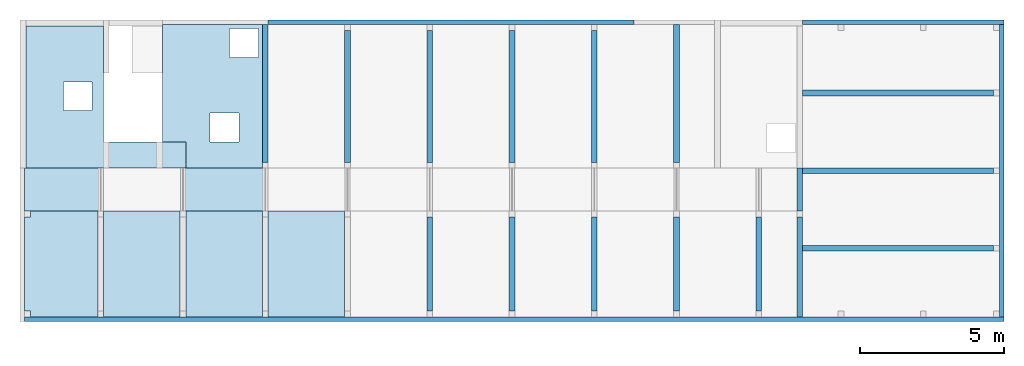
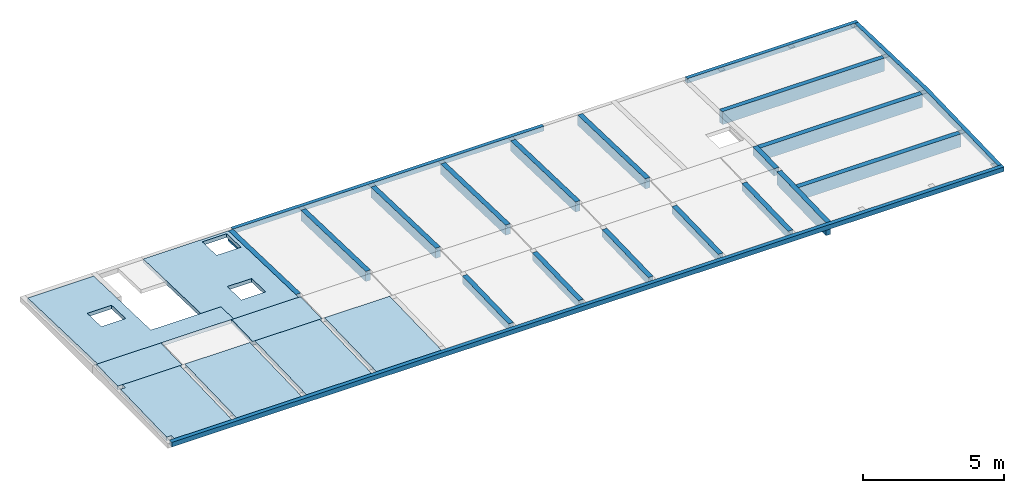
# One storey, part 2 of 5: 20 beams, 8 slabs, 3 openings.
"""IFC4 building model written with IfcOpenShell, lengths in metres."""

from ifc_helpers import new_model, entity, si_unit, converted_unit, derived_unit, frame, frame_2d, origin, origin_with_axes, place, context, subcontext, project, spatial, polyline, rectangle, outline, extrude, clip, halfspace, bounded_halfspace, faceted_brep, material, element, save


model = new_model("IFC4")

# Units and contexts
model_context = context("Model", 3, precision=1e-05, world=origin())
plan_context = context("Plan", 2, precision=1e-05, world=origin())
body_context = subcontext(model_context, "Body", "Model", "MODEL_VIEW")
ifc_project = project(units=[si_unit("LENGTHUNIT", "METRE"), si_unit("AREAUNIT", "SQUARE_METRE"), si_unit("VOLUMEUNIT", "CUBIC_METRE"), si_unit("MASSUNIT", "GRAM", prefix="KILO"), converted_unit("PLANEANGLEUNIT", "DEGREE", entity("IfcPlaneAngleMeasure", 0.0174532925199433), si_unit("PLANEANGLEUNIT", "RADIAN"), dimensions=[0, 0, 0, 0, 0, 0, 0]), derived_unit("THERMALTRANSMITTANCEUNIT", [(si_unit("POWERUNIT", "WATT"), 1), (si_unit("THERMODYNAMICTEMPERATUREUNIT", "KELVIN"), -1), (si_unit("LENGTHUNIT", "METRE"), -2)]), derived_unit("VOLUMETRICFLOWRATEUNIT", [(si_unit("LENGTHUNIT", "METRE"), 3), (converted_unit("TIMEUNIT", "hour", entity("IfcTimeMeasure", 3600.0), si_unit("TIMEUNIT", "SECOND"), dimensions=[0, 0, 1, 0, 0, 0, 0]), -1), (si_unit("LENGTHUNIT", "METRE"), -1)])], contexts=[model_context, plan_context])

# Site, building, storey
site_placement = place(None, origin())
site = spatial("IfcSite", under=ifc_project, at=site_placement, Name="Site", CompositionType="ELEMENT")
building_placement = place(site_placement, origin())
building = spatial("IfcBuilding", under=site, at=building_placement, Name="Admin", CompositionType="ELEMENT")
storey_placement = place(building_placement, frame((0.0, 0.0, 9.64)))
storey = spatial("IfcBuildingStorey", under=building, at=storey_placement, Name="03-Toiture", CompositionType="ELEMENT", Elevation=9.64)

# Beams
ifc_material_1 = material(Name="CLT")
beam_1_placement = place(storey_placement, frame((24.1598015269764, 11.869449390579, -0.16)))
element("IfcBeam", 1, at=beam_1_placement, inside=storey, material=ifc_material_1, Name="Poutre CLT Axe 2.2 R+2", PredefinedType="NOTDEFINED", context=body_context, shape_type="Brep", body=[
    faceted_brep([(34.0599986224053, 0.16, 0.0), (34.0599986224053, 0.0, 0.0), (34.0599986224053, 0.0, 0.200000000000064), (34.0599986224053, 0.16, 0.204637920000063), (1.41395285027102e-08, 0.0, 0.0), (1.41395285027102e-08, 0.0, 0.200000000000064), (0.0, 0.159999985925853, 0.0), (0.0, 0.159999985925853, 0.204637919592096)], [[[0, 1, 2, 3]], [[1, 4, 5, 2]], [[4, 6, 7, 5]], [[6, 0, 3, 7]], [[7, 3, 2, 5]], [[0, 6, 4, 1]]], orient=[[False], [False], [False], [False], [False], [False]]),
])
ifc_material_2 = material(Name="CLT")
beam_2_placement = place(storey_placement, frame((32.6298006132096, 22.189449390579, -0.16)))
element("IfcBeam", 2, at=beam_2_placement, inside=storey, material=ifc_material_2, Name="Poutre CLT Axe 2.6 R+2", PredefinedType="NOTDEFINED", context=body_context, shape_type="Clipping", body=[
    clip(extrude(rectangle(XDim=0.16, YDim=0.204799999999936, at=frame_2d((0.08, 0.102399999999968), x_axis=(1.0, 0.0))), frame((0.0, 0.0, 0.0), z_axis=(1.0, 0.0, 0.0), x_axis=(0.0, 1.0, 0.0)), (0.0, 0.0, 1.0), 12.7200004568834), halfspace(frame((6.36000022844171, 0.08, 0.202399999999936), z_axis=(-7.14689994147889e-17, -0.0299865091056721, -0.999550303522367), x_axis=(0.0, 0.999550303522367, -0.0299865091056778)), True)),
])
ifc_material_3 = material(Name="CLT")
beam_3_placement = place(storey_placement, frame((51.2198010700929, 22.189449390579, -0.16)))
element("IfcBeam", 3, at=beam_3_placement, inside=storey, material=ifc_material_3, Name="Poutre CLT Axe 2.6 R+2", PredefinedType="NOTDEFINED", context=body_context, shape_type="Clipping", body=[
    clip(extrude(rectangle(XDim=0.16, YDim=0.204799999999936, at=frame_2d((0.08, 0.102399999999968), x_axis=(1.0, 0.0))), frame((0.0, 0.0, 0.0), z_axis=(1.0, 0.0, 0.0), x_axis=(0.0, 1.0, 0.0)), (0.0, 0.0, 1.0), 6.99999907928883), halfspace(frame((3.49999953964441, 0.08, 0.202399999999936), z_axis=(0.0, -0.0299865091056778, -0.999550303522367), x_axis=(1.0, 0.0, 0.0)), True)),
])
ifc_material_4 = material(Name="CLT")
beam_4_placement = place(storey_placement, frame((58.2198001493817, 12.029449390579, -0.16), z_axis=(0.0, 0.0, 1.0), x_axis=(0.0, 1.0, 0.0)))
element("IfcBeam", 4, at=beam_4_placement, inside=storey, material=ifc_material_4, Name="Poutre CLT Axe 2.M R+2", PredefinedType="NOTDEFINED", context=body_context, shape_type="Clipping", body=[
    clip(clip(extrude(rectangle(XDim=0.159999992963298, YDim=0.354500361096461, at=frame_2d((0.0799999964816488, 0.177250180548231), x_axis=(1.0, 0.0))), frame((0.0, 0.0, 0.0), z_axis=(1.0, 0.0, 0.0), x_axis=(0.0, 1.0, 0.0)), (0.0, 0.0, 1.0), 10.16), bounded_halfspace(frame((2.58499398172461, 0.0799999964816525, 0.279569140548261), z_axis=(0.0289748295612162, 0.0, -0.999580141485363), x_axis=(0.0, -1.0, 0.0)), True, origin_with_axes(), polyline([(1.81898940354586e-15, 0.159999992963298), (1.81898940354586e-15, 0.0), (5.16998796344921, 0.0), (5.16998796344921, 0.159999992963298), (1.81898940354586e-15, 0.159999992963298)]))), bounded_halfspace(frame((7.66499398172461, 0.0799999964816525, 0.279650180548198), z_axis=(-0.0299865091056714, 0.0, -0.999550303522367), x_axis=(0.999550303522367, 0.0, -0.0299865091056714)), True, origin_with_axes(), polyline([(5.16998796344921, 0.0), (10.16, 0.0), (10.16, 0.159999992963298), (5.16998796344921, 0.159999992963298), (5.16998796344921, 0.0)]))),
])
ifc_material_5 = material(Name="GL24h")
beam_5_placement = place(storey_placement, frame((38.1498006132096, 15.499449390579, -0.269699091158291), z_axis=(0.0, 0.0, 1.0), x_axis=(1.39719693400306e-07, -0.99999999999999, 0.0)))
element("IfcBeam", 5, at=beam_5_placement, inside=storey, material=ifc_material_5, Name="P 2.11 20/32", PredefinedType="NOTDEFINED", context=body_context, shape_type="Clipping", body=[
    clip(clip(extrude(rectangle(XDim=0.2, YDim=0.414921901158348, at=frame_2d((0.1, 0.207460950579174), x_axis=(1.0, 0.0))), frame((0.0, 0.0, 0.0), z_axis=(1.0, 0.0, 0.0), x_axis=(0.0, 1.0, 0.0)), (0.0, 0.0, 1.0), 3.27000000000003), halfspace(frame((1.63500001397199, 0.099999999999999, 0.0473937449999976), z_axis=(0.0289748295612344, -4.04835430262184e-09, 0.999580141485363), x_axis=(-1.39719693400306e-07, -0.99999999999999, 0.0)), True)), halfspace(frame((1.63500001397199, 0.099999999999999, 0.367528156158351), z_axis=(-0.0289748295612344, 4.04835430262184e-09, -0.999580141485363), x_axis=(0.999580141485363, -2.64697796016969e-23, -0.0289748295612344)), True)),
])
ifc_material_6 = material(Name="GL24h")
beam_6_placement = place(storey_placement, frame((41.0098006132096, 15.499449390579, -0.269699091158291), z_axis=(0.0, 0.0, 1.0), x_axis=(1.39719693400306e-07, -0.99999999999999, 0.0)))
element("IfcBeam", 6, at=beam_6_placement, inside=storey, material=ifc_material_6, Name="P 2.12 20/32", PredefinedType="NOTDEFINED", context=body_context, shape_type="Clipping", body=[
    clip(clip(extrude(rectangle(XDim=0.2, YDim=0.414921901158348, at=frame_2d((0.1, 0.207460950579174), x_axis=(1.0, 0.0))), frame((0.0, 0.0, 0.0), z_axis=(1.0, 0.0, 0.0), x_axis=(0.0, 1.0, 0.0)), (0.0, 0.0, 1.0), 3.27000000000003), halfspace(frame((1.63500001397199, 0.099999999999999, 0.0473937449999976), z_axis=(0.0289748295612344, -4.04835430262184e-09, 0.999580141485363), x_axis=(-1.39719693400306e-07, -0.99999999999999, 0.0)), True)), halfspace(frame((1.63500001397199, 0.099999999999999, 0.367528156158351), z_axis=(-0.0289748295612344, 4.04835430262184e-09, -0.999580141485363), x_axis=(0.999580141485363, -2.64697796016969e-23, -0.0289748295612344)), True)),
])
ifc_material_7 = material(Name="GL24h")
beam_7_placement = place(storey_placement, frame((43.8698006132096, 15.499449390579, -0.269699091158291), z_axis=(0.0, 0.0, 1.0), x_axis=(1.39719693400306e-07, -0.99999999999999, 0.0)))
element("IfcBeam", 7, at=beam_7_placement, inside=storey, material=ifc_material_7, Name="P 2.13 20/32", PredefinedType="NOTDEFINED", context=body_context, shape_type="Clipping", body=[
    clip(clip(extrude(rectangle(XDim=0.2, YDim=0.414921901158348, at=frame_2d((0.1, 0.207460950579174), x_axis=(1.0, 0.0))), frame((0.0, 0.0, 0.0), z_axis=(1.0, 0.0, 0.0), x_axis=(0.0, 1.0, 0.0)), (0.0, 0.0, 1.0), 3.27000000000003), halfspace(frame((1.63500001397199, 0.099999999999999, 0.0473937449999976), z_axis=(0.0289748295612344, -4.04835430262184e-09, 0.999580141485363), x_axis=(-1.39719693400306e-07, -0.99999999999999, 0.0)), True)), halfspace(frame((1.63500001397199, 0.099999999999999, 0.367528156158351), z_axis=(-0.0289748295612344, 4.04835430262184e-09, -0.999580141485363), x_axis=(0.999580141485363, -2.64697796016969e-23, -0.0289748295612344)), True)),
])
ifc_material_8 = material(Name="GL24h")
beam_8_placement = place(storey_placement, frame((46.7298006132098, 15.499449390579, -0.269699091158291), z_axis=(0.0, 0.0, 1.0), x_axis=(1.39719693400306e-07, -0.99999999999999, 0.0)))
element("IfcBeam", 8, at=beam_8_placement, inside=storey, material=ifc_material_8, Name="P 2.14 20/32", PredefinedType="NOTDEFINED", context=body_context, shape_type="Clipping", body=[
    clip(clip(extrude(rectangle(XDim=0.2, YDim=0.414921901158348, at=frame_2d((0.1, 0.207460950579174), x_axis=(1.0, 0.0))), frame((0.0, 0.0, 0.0), z_axis=(1.0, 0.0, 0.0), x_axis=(0.0, 1.0, 0.0)), (0.0, 0.0, 1.0), 3.27000000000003), halfspace(frame((1.63500001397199, 0.099999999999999, 0.0473937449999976), z_axis=(0.0289748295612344, -4.04835430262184e-09, 0.999580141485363), x_axis=(-1.39719693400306e-07, -0.99999999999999, 0.0)), True)), halfspace(frame((1.63500001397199, 0.099999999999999, 0.367528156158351), z_axis=(-0.0289748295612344, 4.04835430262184e-09, -0.999580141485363), x_axis=(0.999580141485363, -2.64697796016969e-23, -0.0289748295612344)), True)),
])
ifc_material_9 = material(Name="GL24h")
beam_9_placement = place(storey_placement, frame((49.5898006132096, 15.499449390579, -0.269699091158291), z_axis=(0.0, 0.0, 1.0), x_axis=(1.39719693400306e-07, -0.99999999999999, 0.0)))
element("IfcBeam", 9, at=beam_9_placement, inside=storey, material=ifc_material_9, Name="P 2.15 20/32", PredefinedType="NOTDEFINED", context=body_context, shape_type="Clipping", body=[
    clip(clip(extrude(rectangle(XDim=0.2, YDim=0.414921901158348, at=frame_2d((0.1, 0.207460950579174), x_axis=(1.0, 0.0))), frame((0.0, 0.0, 0.0), z_axis=(1.0, 0.0, 0.0), x_axis=(0.0, 1.0, 0.0)), (0.0, 0.0, 1.0), 3.27000000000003), halfspace(frame((1.63500001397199, 0.099999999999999, 0.0473937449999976), z_axis=(0.0289748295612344, -4.04835430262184e-09, 0.999580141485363), x_axis=(-1.39719693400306e-07, -0.99999999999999, 0.0)), True)), halfspace(frame((1.63500001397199, 0.099999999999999, 0.367528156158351), z_axis=(-0.0289748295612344, 4.04835430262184e-09, -0.999580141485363), x_axis=(0.999580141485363, -2.64697796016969e-23, -0.0289748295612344)), True)),
])
ifc_material_10 = material(Name="GL24h")
beam_10_placement = place(storey_placement, frame((51.2198015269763, 12.029449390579, -0.515597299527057), z_axis=(0.0, 0.0, 1.0), x_axis=(-1.31666685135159e-07, 0.999999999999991, 0.0)))
element("IfcBeam", 10, at=beam_10_placement, inside=storey, material=ifc_material_10, Name="P 2.16 20/56", PredefinedType="NOTDEFINED", context=body_context, shape_type="Clipping", body=[
    clip(clip(extrude(rectangle(XDim=0.2, YDim=0.660820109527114, at=frame_2d((0.1, 0.330410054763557), x_axis=(1.0, 0.0))), frame((0.0, 0.0, 0.0), z_axis=(1.0, 0.0, 0.0), x_axis=(0.0, 1.0, 0.0)), (0.0, 0.0, 1.0), 3.47000000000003), halfspace(frame((1.73500001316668, 0.0999999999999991, 0.0502924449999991), z_axis=(-0.0289748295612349, 3.81501978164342e-09, 0.999580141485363), x_axis=(-1.31666685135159e-07, -0.999999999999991, 0.0)), True)), halfspace(frame((1.73500001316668, 0.0999999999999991, 0.610527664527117), z_axis=(0.0289748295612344, -3.81501976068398e-09, -0.999580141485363), x_axis=(0.999580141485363, 0.0, 0.0289748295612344)), True)),
])
ifc_material_11 = material(Name="GL24h")
beam_11_placement = place(storey_placement, frame((57.8598006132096, 14.509449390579, -0.44950693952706), z_axis=(0.0, 0.0, 1.0), x_axis=(-1.0, 0.0, 0.0)))
element("IfcBeam", 11, at=beam_11_placement, inside=storey, material=ifc_material_11, Name="P 2.19 20/56", PredefinedType="NOTDEFINED", context=body_context, shape_type="Clipping", body=[
    clip(clip(extrude(rectangle(XDim=0.2, YDim=0.566032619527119, at=frame_2d((0.1, 0.28301630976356), x_axis=(1.0, 0.0))), frame((0.0, 0.0, 0.0), z_axis=(1.0, 0.0, 0.0), x_axis=(0.0, 1.0, 0.0)), (0.0, 0.0, 1.0), 6.63999896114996), halfspace(frame((3.31999947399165, 0.1, 0.00289869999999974), z_axis=(0.0, 0.0289748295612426, 0.999580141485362), x_axis=(0.0, -0.999580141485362, 0.0289748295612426)), True)), halfspace(frame((3.31999947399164, 0.1, 0.563133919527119), z_axis=(0.0, -0.0289748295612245, -0.999580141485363), x_axis=(1.0, 0.0, 0.0)), True)),
])
ifc_material_12 = material(Name="GL24h")
beam_12_placement = place(storey_placement, frame((57.8598006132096, 17.209449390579, -0.371242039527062), z_axis=(0.0, 0.0, 1.0), x_axis=(-1.0, 0.0, 0.0)))
element("IfcBeam", 12, at=beam_12_placement, inside=storey, material=ifc_material_12, Name="P 2.18  20/56", PredefinedType="NOTDEFINED", context=body_context, shape_type="Clipping", body=[
    clip(clip(clip(clip(extrude(rectangle(XDim=0.2, YDim=0.565742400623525, at=frame_2d((0.1, 0.282871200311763), x_axis=(1.0, 0.0))), frame((0.0, 0.0, 0.0), z_axis=(1.0, 0.0, 0.0), x_axis=(0.0, 1.0, 0.0)), (0.0, 0.0, 1.0), 6.63999908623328), bounded_halfspace(frame((3.31999954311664, 0.00500601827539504, 0.00534027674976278), z_axis=(-1.36911682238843e-16, -0.0299865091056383, 0.999550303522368), x_axis=(0.0, -0.999550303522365, -0.0299865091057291)), True, origin_with_axes(), polyline([(0.0, 0.0100120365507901), (0.0, 0.0), (6.63999908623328, 0.0), (6.63999908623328, 0.0100120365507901), (0.0, 0.0100120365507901)]))), bounded_halfspace(frame((3.31999954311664, 0.105006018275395, 0.00275359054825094), z_axis=(0.0, 0.0289748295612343, 0.999580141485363), x_axis=(-1.0, 0.0, 0.0)), True, origin_with_axes(), polyline([(6.63999908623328, 0.2), (0.0, 0.2), (0.0, 0.0100120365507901), (6.63999908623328, 0.0100120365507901), (6.63999908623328, 0.2)]))), bounded_halfspace(frame((3.31999954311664, 0.00500601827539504, 0.565592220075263), z_axis=(0.0, 0.0299865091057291, -0.999550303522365), x_axis=(1.0, 0.0, 0.0)), True, origin_with_axes(), polyline([(0.0, 0.0), (6.63999908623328, 0.0), (6.63999908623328, 0.0100120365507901), (0.0, 0.0100120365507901), (0.0, 0.0)]))), bounded_halfspace(frame((3.31999954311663, 0.105006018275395, 0.562988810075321), z_axis=(0.0, -0.028974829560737, -0.999580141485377), x_axis=(0.0, -0.999580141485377, 0.028974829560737)), True, origin_with_axes(), polyline([(0.0, 0.2), (0.0, 0.0100120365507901), (6.63999908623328, 0.0100120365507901), (6.63999908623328, 0.2), (0.0, 0.2)]))),
])
ifc_material_13 = material(Name="GL24h")
beam_13_placement = place(storey_placement, frame((57.8598006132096, 19.909449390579, -0.447051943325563), z_axis=(0.0, 0.0, 1.0), x_axis=(-1.0, 0.0, 0.0)))
element("IfcBeam", 13, at=beam_13_placement, inside=storey, material=ifc_material_13, Name="P 2.17 20/56", PredefinedType="NOTDEFINED", context=body_context, shape_type="Clipping", body=[
    clip(clip(extrude(rectangle(XDim=0.2, YDim=0.5662519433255, at=frame_2d((0.1, 0.28312597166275), x_axis=(1.0, 0.0))), frame((0.0, 0.0, 0.0), z_axis=(1.0, 0.0, 0.0), x_axis=(0.0, 1.0, 0.0)), (0.0, 0.0, 1.0), 6.63999908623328), halfspace(frame((3.31999954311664, 0.1, 0.003), z_axis=(0.0, -0.029986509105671, 0.999550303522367), x_axis=(0.0, -0.999550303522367, -0.029986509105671)), True)), halfspace(frame((3.31999954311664, 0.1, 0.563251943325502), z_axis=(0.0, 0.0299865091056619, -0.999550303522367), x_axis=(1.0, 0.0, 0.0)), True)),
])
ifc_material_14 = material(Name="GL24h")
beam_14_placement = place(storey_placement, frame((46.7298006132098, 22.189449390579, -0.3953979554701), z_axis=(0.0, 0.0, 1.0), x_axis=(0.0, -1.0, 0.0)))
element("IfcBeam", 14, at=beam_14_placement, inside=storey, material=ifc_material_14, Name="P 2.06 20/44", PredefinedType="NOTDEFINED", context=body_context, shape_type="Clipping", body=[
    clip(clip(extrude(rectangle(XDim=0.2, YDim=0.583897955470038, at=frame_2d((0.1, 0.291948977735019), x_axis=(1.0, 0.0))), frame((0.0, 0.0, 0.0), z_axis=(1.0, 0.0, 0.0), x_axis=(0.0, 1.0, 0.0)), (0.0, 0.0, 1.0), 4.79), halfspace(frame((2.395, 0.1, 0.0718500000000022), z_axis=(-0.0299865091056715, 0.0, 0.999550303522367), x_axis=(0.0, -1.0, 0.0)), True)), halfspace(frame((2.395, 0.1, 0.512047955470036), z_axis=(0.0299865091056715, 0.0, -0.999550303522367), x_axis=(0.999550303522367, 0.0, 0.0299865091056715)), True)),
])
ifc_material_15 = material(Name="GL24h")
beam_15_placement = place(storey_placement, frame((43.8698006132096, 21.989449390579, -0.389397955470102), z_axis=(0.0, 0.0, 1.0), x_axis=(0.0, -1.0, 0.0)))
element("IfcBeam", 15, at=beam_15_placement, inside=storey, material=ifc_material_15, Name="P 2.05 20/44", PredefinedType="NOTDEFINED", context=body_context, shape_type="Clipping", body=[
    clip(clip(extrude(rectangle(XDim=0.2, YDim=0.57789795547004, at=frame_2d((0.1, 0.28894897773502), x_axis=(1.0, 0.0))), frame((0.0, 0.0, 0.0), z_axis=(1.0, 0.0, 0.0), x_axis=(0.0, 1.0, 0.0)), (0.0, 0.0, 1.0), 4.59), halfspace(frame((2.295, 0.1, 0.0688500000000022), z_axis=(-0.029986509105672, 0.0, 0.999550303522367), x_axis=(0.0, -1.0, 0.0)), True)), halfspace(frame((2.295, 0.1, 0.50904795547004), z_axis=(0.0299865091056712, 0.0, -0.999550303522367), x_axis=(0.999550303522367, 0.0, 0.0299865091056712)), True)),
])
ifc_material_16 = material(Name="GL24h")
beam_16_placement = place(storey_placement, frame((41.0098006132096, 21.989449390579, -0.389397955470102), z_axis=(0.0, 0.0, 1.0), x_axis=(0.0, -1.0, 0.0)))
element("IfcBeam", 16, at=beam_16_placement, inside=storey, material=ifc_material_16, Name="P 2.04 20/44", PredefinedType="NOTDEFINED", context=body_context, shape_type="Clipping", body=[
    clip(clip(extrude(rectangle(XDim=0.2, YDim=0.57789795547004, at=frame_2d((0.1, 0.28894897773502), x_axis=(1.0, 0.0))), frame((0.0, 0.0, 0.0), z_axis=(1.0, 0.0, 0.0), x_axis=(0.0, 1.0, 0.0)), (0.0, 0.0, 1.0), 4.59), halfspace(frame((2.295, 0.1, 0.0688500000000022), z_axis=(-0.029986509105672, 0.0, 0.999550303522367), x_axis=(0.0, -1.0, 0.0)), True)), halfspace(frame((2.295, 0.1, 0.50904795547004), z_axis=(0.0299865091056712, 0.0, -0.999550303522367), x_axis=(0.999550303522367, 0.0, 0.0299865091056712)), True)),
])
ifc_material_17 = material(Name="GL24h")
beam_17_placement = place(storey_placement, frame((38.1498006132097, 21.989449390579, -0.389397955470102), z_axis=(0.0, 0.0, 1.0), x_axis=(0.0, -1.0, 0.0)))
element("IfcBeam", 17, at=beam_17_placement, inside=storey, material=ifc_material_17, Name="P 2.03 20/44", PredefinedType="NOTDEFINED", context=body_context, shape_type="Clipping", body=[
    clip(clip(extrude(rectangle(XDim=0.2, YDim=0.57789795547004, at=frame_2d((0.1, 0.28894897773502), x_axis=(1.0, 0.0))), frame((0.0, 0.0, 0.0), z_axis=(1.0, 0.0, 0.0), x_axis=(0.0, 1.0, 0.0)), (0.0, 0.0, 1.0), 4.59), halfspace(frame((2.295, 0.1, 0.0688500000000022), z_axis=(-0.029986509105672, 0.0, 0.999550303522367), x_axis=(0.0, -1.0, 0.0)), True)), halfspace(frame((2.295, 0.1, 0.50904795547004), z_axis=(0.0299865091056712, 0.0, -0.999550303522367), x_axis=(0.999550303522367, 0.0, 0.0299865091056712)), True)),
])
ifc_material_18 = material(Name="GL24h")
beam_18_placement = place(storey_placement, frame((35.2898006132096, 21.989449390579, -0.389397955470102), z_axis=(0.0, 0.0, 1.0), x_axis=(0.0, -1.0, 0.0)))
element("IfcBeam", 18, at=beam_18_placement, inside=storey, material=ifc_material_18, Name="P 2.02 20/44", PredefinedType="NOTDEFINED", context=body_context, shape_type="Clipping", body=[
    clip(clip(extrude(rectangle(XDim=0.2, YDim=0.577897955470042, at=frame_2d((0.1, 0.288948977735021), x_axis=(1.0, 0.0))), frame((0.0, 0.0, 0.0), z_axis=(1.0, 0.0, 0.0), x_axis=(0.0, 1.0, 0.0)), (0.0, 0.0, 1.0), 4.59), halfspace(frame((2.295, 0.1, 0.0688500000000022), z_axis=(-0.029986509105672, 0.0, 0.999550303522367), x_axis=(0.0, -1.0, 0.0)), True)), halfspace(frame((2.295, 0.1, 0.509047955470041), z_axis=(0.0299865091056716, -3.16892620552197e-17, -0.999550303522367), x_axis=(0.999550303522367, 0.0, 0.0299865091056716)), True)),
])
ifc_material_19 = material(Name="GL24h")
beam_19_placement = place(storey_placement, frame((32.4298006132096, 22.189449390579, -0.3953979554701), z_axis=(0.0, 0.0, 1.0), x_axis=(0.0, -1.0, 0.0)))
element("IfcBeam", 19, at=beam_19_placement, inside=storey, material=ifc_material_19, Name="P 2.01 20/44", PredefinedType="NOTDEFINED", context=body_context, shape_type="Clipping", body=[
    clip(clip(extrude(rectangle(XDim=0.2, YDim=0.58389795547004, at=frame_2d((0.1, 0.29194897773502), x_axis=(1.0, 0.0))), frame((0.0, 0.0, 0.0), z_axis=(1.0, 0.0, 0.0), x_axis=(0.0, 1.0, 0.0)), (0.0, 0.0, 1.0), 4.79), halfspace(frame((2.395, 0.1, 0.0718500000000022), z_axis=(-0.0299865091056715, 0.0, 0.999550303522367), x_axis=(0.0, -1.0, 0.0)), True)), halfspace(frame((2.395, 0.1, 0.51204795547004), z_axis=(0.0299865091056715, 0.0, -0.999550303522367), x_axis=(0.999550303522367, 0.0, 0.0299865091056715)), True)),
])
ifc_material_20 = material(Name="C30/37")
beam_20_placement = place(storey_placement, frame((51.01980059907, 17.199449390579, -0.16), z_axis=(0.0, 0.0, 1.0), x_axis=(9.70127681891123e-15, -1.0, 0.0)))
element("IfcBeam", 20, at=beam_20_placement, inside=storey, material=ifc_material_20, Name="P BA 2.01", PredefinedType="NOTDEFINED", context=body_context, shape_type="Clipping", body=[
    clip(extrude(rectangle(XDim=0.2, YDim=0.354500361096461, at=frame_2d((0.1, 0.177250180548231), x_axis=(1.0, 0.0))), frame((0.0, 0.0, 0.0), z_axis=(1.0, 0.0, 0.0), x_axis=(0.0, 1.0, 0.0)), (0.0, 0.0, 1.0), 1.5), halfspace(frame((0.750006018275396, 0.1, 0.33276028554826), z_axis=(-0.0289748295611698, 2.81092842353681e-16, -0.999580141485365), x_axis=(-0.999580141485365, -4.84871854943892e-15, 0.0289748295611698)), True)),
])

# Slabs
ifc_material_21 = material(Name="CLT")
slab_1_placement = place(storey_placement, frame((24.159801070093, 12.029449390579, -0.115362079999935), z_axis=(-1.56768933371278e-18, -0.0289748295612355, 0.999580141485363), x_axis=(-1.0, 5.41052132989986e-17, 0.0)))
element("IfcSlab", 21, at=slab_1_placement, inside=storey, material=ifc_material_21, Name="CLT ép. 16 cm", PredefinedType="FLOOR", context=body_context, shape_type="SweptSolid", body=[
    extrude(outline(polyline([(-1.81249977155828, -1.83577076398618), (0.537500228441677, -1.83577076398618), (0.537500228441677, -1.63568675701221), (0.737500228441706, -1.63568675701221), (0.737499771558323, 1.63568675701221), (0.537499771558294, 1.63568675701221), (0.537499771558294, 1.83577076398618), (-1.81250022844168, 1.83577076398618), (-1.81249977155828, -1.83577076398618)])), frame((-0.737500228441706, -1.83577076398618, -2.44426701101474e-15), z_axis=(0.0, 0.0, 1.0), x_axis=(1.0, 0.0, 0.0)), (0.0, -0.0289748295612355, 0.999580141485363), 0.159999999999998),
])
ifc_material_22 = material(Name="CLT")
slab_2_placement = place(storey_placement, frame((29.6898006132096, 15.699449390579, -0.00897978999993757)))
element("IfcSlab", 22, at=slab_2_placement, inside=storey, material=ifc_material_22, Name="CLT ép. 16 cm", PredefinedType="FLOOR", context=body_context, shape_type="SweptSolid", body=[
    extrude(outline(polyline([(1.67599997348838, -7.08465583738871e-06), (1.67599997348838, 4.95731018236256e-06), (-1.06399989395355, 4.95731018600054e-06), (-1.14400002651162, 4.25469132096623e-06), (-1.14400002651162, -7.08465583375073e-06), (1.67599997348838, -7.08465583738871e-06)])), frame((1.14400002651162, 1.4999950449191, 0.0434799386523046), z_axis=(-3.34455081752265e-17, 0.029986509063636, 0.999550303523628), x_axis=(1.0, 1.11535184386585e-15, 0.0)), (0.0, -0.029986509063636, 0.999550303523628), 0.160000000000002),
    extrude(rectangle(XDim=2.82, YDim=1.50061801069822, at=frame_2d((0.0, 9.09494701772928e-16), x_axis=(-1.0, 0.0))), frame((1.41, 0.749993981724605, 0.0217400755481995), z_axis=(0.0, -0.028974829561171, 0.999580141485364), x_axis=(-1.0, 0.0, 0.0)), (0.0, -0.028974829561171, 0.999580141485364), 0.16),
])
ifc_material_23 = material(Name="CLT")
slab_3_placement = place(storey_placement, frame((29.7698006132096, 12.029449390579, -0.115362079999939), z_axis=(0.0, -0.0289748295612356, 0.999580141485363), x_axis=(-1.0, 0.0, 0.0)))
element("IfcSlab", 23, at=slab_3_placement, inside=storey, material=ifc_material_23, Name="CLT ép. 16 cm", PredefinedType="FLOOR", context=body_context, shape_type="SweptSolid", body=[
    extrude(rectangle(XDim=3.67154152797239, YDim=2.65999999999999, at=frame_2d((-7.27595761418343e-15, 9.09494701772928e-16), x_axis=(-1.24439120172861e-07, 0.999999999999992))), frame((-1.33000022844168, -1.83577076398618, -1.30739863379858e-15), z_axis=(0.0, 0.0, 1.0), x_axis=(1.0, 0.0, 0.0)), (0.0, -0.0289748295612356, 0.999580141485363), 0.16),
])
ifc_material_24 = material(Name="CLT")
slab_4_placement = place(storey_placement, frame((32.6298006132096, 12.029449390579, -0.115362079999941), z_axis=(0.0, -0.0289748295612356, 0.999580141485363), x_axis=(-1.0, 0.0, 0.0)))
element("IfcSlab", 24, at=slab_4_placement, inside=storey, material=ifc_material_24, Name="CLT ép. 16 cm", PredefinedType="FLOOR", context=body_context, shape_type="SweptSolid", body=[
    extrude(rectangle(XDim=3.67154152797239, YDim=2.66000000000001, at=frame_2d((0.0, 9.09494701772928e-16), x_axis=(-1.24439120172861e-07, 0.999999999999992))), frame((-1.33000022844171, -1.83577076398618, 5.11590769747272e-16), z_axis=(0.0, 0.0, 1.0), x_axis=(1.0, 0.0, 0.0)), (0.0, -0.0289748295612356, 0.999580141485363), 0.16),
])
ifc_material_25 = material(Name="CLT")
slab_5_placement = place(storey_placement, frame((26.909801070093, 12.029449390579, -0.115362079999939), z_axis=(0.0, -0.0289748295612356, 0.999580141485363), x_axis=(-1.0, 0.0, 0.0)))
element("IfcSlab", 25, at=slab_5_placement, inside=storey, material=ifc_material_25, Name="CLT ép. 16 cm", PredefinedType="FLOOR", context=body_context, shape_type="SweptSolid", body=[
    extrude(rectangle(XDim=2.65999954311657, YDim=3.67154152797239, at=frame_2d((0.0, 9.09494701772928e-16), x_axis=(1.0, 0.0))), frame((-1.32999999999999, -1.83577076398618, -1.30739863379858e-15), z_axis=(0.0, 0.0, 1.0), x_axis=(1.0, 0.0, 0.0)), (0.0, -0.0289748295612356, 0.999580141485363), 0.16),
])
ifc_material_26 = material(Name="CLT")
slab_6_placement = place(storey_placement, frame((24.159801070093, 15.699449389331, -0.00897979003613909)))
element("IfcSlab", 26, at=slab_6_placement, inside=storey, material=ifc_material_26, Name="CLT ép. 16 cm", PredefinedType="FLOOR", context=body_context, shape_type="SweptSolid", body=[
    extrude(outline(polyline([(1.7533330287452, 1.39968894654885e-06), (-0.876666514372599, 5.32051427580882e-06), (-0.876666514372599, -6.72020321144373e-06), (1.7533330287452, 1.39968894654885e-06)])), frame((0.876666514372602, 1.49999468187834, 0.0434799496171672), z_axis=(1.51451398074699e-16, 0.0299865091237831, 0.999550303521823), x_axis=(1.0, -5.05065119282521e-15, 0.0)), (0.0, -0.0299865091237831, 0.999550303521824), 0.16),
    extrude(rectangle(XDim=2.63, YDim=1.50061801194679, at=frame_2d((1.14219932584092e-07, 1.81898940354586e-15), x_axis=(-1.0, -6.3145905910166e-13))), frame((1.31499988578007, 0.749993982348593, 0.0217400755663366), z_axis=(-1.83206000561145e-14, -0.0289748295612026, 0.999580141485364), x_axis=(-1.0, 6.32293626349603e-13, 0.0)), (0.0, -0.0289748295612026, 0.999580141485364), 0.16),
])

# Slab, openings
ifc_material_27 = material(Name="CLT")
slab_7_placement = place(storey_placement, frame((28.9498290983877, 17.199449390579, -0.115200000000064), z_axis=(-1.0867258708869e-16, 0.0299865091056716, 0.999550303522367), x_axis=(1.0, 3.62404929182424e-15, 0.0)))
slab_7 = element("IfcSlab", 27, at=slab_7_placement, inside=storey, material=ifc_material_27, Name="CLT ép. 16 cm", PredefinedType="FLOOR", context=body_context, shape_type="SweptSolid", body=[
    extrude(outline(polyline([(-1.43331385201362, 3.0280233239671), (-1.43331430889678, -1.06381534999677), (-0.613343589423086, -1.06380956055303), (-0.613342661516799, -1.96421446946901), (2.04665720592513, -1.96421446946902), (2.04665720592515, 3.02803052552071), (-1.43331385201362, 3.0280233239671)])), frame((1.43331430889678, 1.95972548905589, 0.1496326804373), z_axis=(0.0, 0.0, 1.0), x_axis=(1.0, 0.0, 0.0)), (0.0, -0.0299865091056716, 0.999550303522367), 0.16),
])
opening_1_placement = place(slab_7_placement, frame((1.65997104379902, 0.906820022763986, 0.119646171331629)))
element("IfcOpeningElement", 28, at=opening_1_placement, cuts=slab_7, Name="Trémie dans dalle", ObjectType="Opening", context=body_context, shape_type="SweptSolid", body=[
    extrude(rectangle(XDim=1.0, YDim=1.00044989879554, at=frame_2d((7.27595761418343e-15, 0.0), x_axis=(-1.0, 0.0))), frame((0.499999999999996, 0.499325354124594, 0.0299865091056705), z_axis=(1.08672587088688e-16, -6.17561557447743e-16, 1.0), x_axis=(1.0, -3.62241956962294e-15, -1.0867258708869e-16)), (0.0, -0.029986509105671, 0.999550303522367), 0.16),
])
opening_2_placement = place(slab_7_placement, frame((2.34015902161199, 3.84190479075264, 0.119214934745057)))
element("IfcOpeningElement", 29, at=opening_2_placement, cuts=slab_7, Name="Trémie dans dalle", ObjectType="Opening", context=body_context, shape_type="SweptSolid", body=[
    extrude(rectangle(XDim=1.01483738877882, YDim=0.999965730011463, at=frame_2d((0.0, -3.63797880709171e-15), x_axis=(0.0, -1.0))), frame((0.499982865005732, 0.506506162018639, 0.0304177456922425), z_axis=(1.08672587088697e-16, 1.81452075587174e-15, 1.0), x_axis=(1.0, -3.62241956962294e-15, -1.0867258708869e-16)), (0.0, -0.0299865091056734, 0.999550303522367), 0.160000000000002),
])

# Slab, opening
ifc_material_28 = material(Name="C30/37")
slab_8_placement = place(storey_placement, frame((24.1998005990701, 17.1994421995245, -0.114000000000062), z_axis=(3.33007599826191e-16, 0.0299865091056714, 0.999550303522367), x_axis=(1.0, -1.11052473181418e-14, 0.0)))
slab_8 = element("IfcSlab", 30, at=slab_8_placement, inside=storey, material=ifc_material_28, Name="Dalle BA R+2", PredefinedType="FLOOR", context=body_context, shape_type="SweptSolid", body=[
    extrude(outline(polyline([(2.33988238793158, -1.57570499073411), (2.33988146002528, -0.675300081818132), (1.31991074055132, -0.675307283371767), (-0.530089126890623, -0.675307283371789), (-0.530088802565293, 3.37651480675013), (-3.23011775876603, 3.37652200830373), (-3.23011775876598, -1.57570499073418), (1.5207388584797, -1.57571218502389), (2.33988238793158, -1.57570499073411)])), frame((3.23011775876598, 1.57125918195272, 0.148433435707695), z_axis=(0.0, 0.0, 1.0), x_axis=(1.0, 0.0, 0.0)), (0.0, -0.0299865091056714, 0.999550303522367), 0.160000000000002),
])
opening_3_placement = place(slab_8_placement, frame((1.30999954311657, 1.9973535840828, 0.118446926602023)))
element("IfcOpeningElement", 31, at=opening_3_placement, cuts=slab_8, Name="Trémie dans dalle", ObjectType="Opening", context=body_context, shape_type="SweptSolid", body=[
    extrude(rectangle(XDim=1.00044989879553, YDim=1.0, at=frame_2d((0.0, 1.81898940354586e-15), x_axis=(0.0, 1.0))), frame((0.499999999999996, 0.499325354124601, 0.0299865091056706), z_axis=(-3.33007599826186e-16, -3.98986399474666e-16, 1.0), x_axis=(1.0, 1.11002533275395e-14, 3.33007599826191e-16)), (0.0, -0.029986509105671, 0.999550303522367), 0.16),
])

save(model, "model.ifc")
